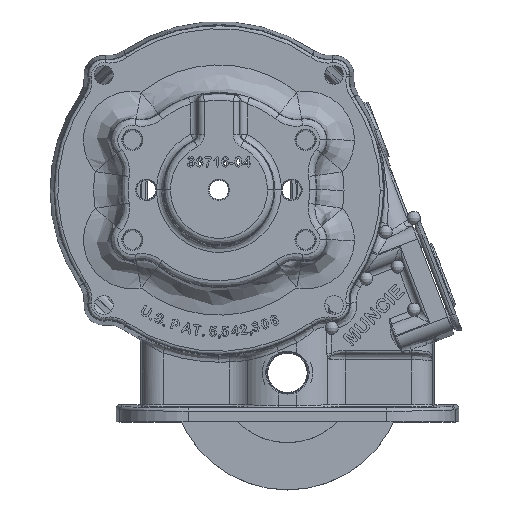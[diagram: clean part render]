
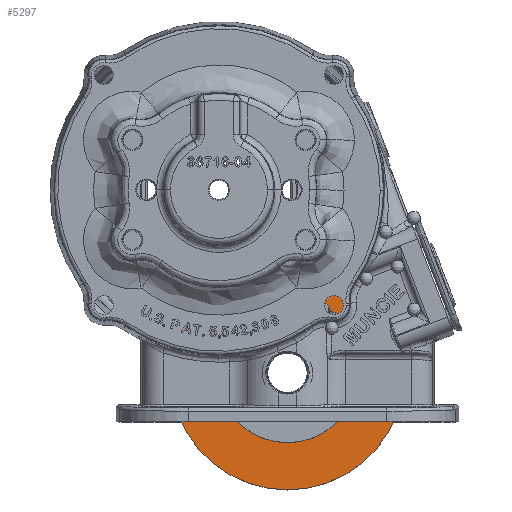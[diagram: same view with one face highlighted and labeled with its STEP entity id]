
A CAD part, top view. The second image highlights one B-rep face of the part: STEP entity #5297.
In plain terms, the highlighted planar face has unit normal (0, 0, 1).
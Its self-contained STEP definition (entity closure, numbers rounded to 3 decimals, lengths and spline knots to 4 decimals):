
#5297 = ADVANCED_FACE ( 'NONE', ( #32018, #32021 ), #32023, .T. ) ;
#10186 = CARTESIAN_POINT ( 'NONE',  ( 0.2973, -1.4645, -0.2777 ) ) ;
#10189 = DIRECTION ( 'NONE',  ( 0., 0., 1. ) ) ;
#10192 = DIRECTION ( 'NONE',  ( 0., -1., 0. ) ) ;
#10197 = CARTESIAN_POINT ( 'NONE',  ( 0.2973, -1.4645, -0.2777 ) ) ;
#10200 = DIRECTION ( 'NONE',  ( 0., 0., 1. ) ) ;
#10203 = DIRECTION ( 'NONE',  ( 0., -1., 0. ) ) ;
#32008 = CARTESIAN_POINT ( 'NONE',  ( 0.2973, -1.4645, -0.2777 ) ) ;
#32018 = FACE_OUTER_BOUND ( 'NONE', #60357, .T. ) ;
#32021 = FACE_BOUND ( 'NONE', #60524, .T. ) ;
#32023 = PLANE ( 'NONE',  #113807 ) ;
#32027 = DIRECTION ( 'NONE',  ( 0., 0., 1. ) ) ;
#32029 = DIRECTION ( 'NONE',  ( 0., -1., 0. ) ) ;
#42989 = ORIENTED_EDGE ( 'NONE', *, *, #69253, .F. ) ;
#46283 = ORIENTED_EDGE ( 'NONE', *, *, #69237, .T. ) ;
#46285 = ORIENTED_EDGE ( 'NONE', *, *, #69243, .F. ) ;
#46287 = ORIENTED_EDGE ( 'NONE', *, *, #69254, .T. ) ;
#46290 = VERTEX_POINT ( 'NONE', #74954 ) ;
#46291 = VERTEX_POINT ( 'NONE', #74952 ) ;
#46300 = VERTEX_POINT ( 'NONE', #74961 ) ;
#46302 = VERTEX_POINT ( 'NONE', #74963 ) ;
#60357 = EDGE_LOOP ( 'NONE', ( #46287, #46283 ) ) ;
#60524 = EDGE_LOOP ( 'NONE', ( #42989, #46285 ) ) ;
#64405 = CARTESIAN_POINT ( 'NONE',  ( 0.2973, -1.4645, -0.2777 ) ) ;
#64407 = DIRECTION ( 'NONE',  ( 0., 0., 1. ) ) ;
#64409 = DIRECTION ( 'NONE',  ( 0., -1., 0. ) ) ;
#64447 = CARTESIAN_POINT ( 'NONE',  ( 0.2973, -1.4645, -0.2777 ) ) ;
#64449 = DIRECTION ( 'NONE',  ( 0., 0., 1. ) ) ;
#64451 = DIRECTION ( 'NONE',  ( 0., -1., 0. ) ) ;
#69237 = EDGE_CURVE ( 'NONE', #46302, #46300, #84190, .T. ) ;
#69243 = EDGE_CURVE ( 'NONE', #46291, #46290, #84143, .T. ) ;
#69253 = EDGE_CURVE ( 'NONE', #46290, #46291, #84083, .T. ) ;
#69254 = EDGE_CURVE ( 'NONE', #46300, #46302, #84076, .T. ) ;
#74952 = CARTESIAN_POINT ( 'NONE',  ( 0.2973, -2.6645, -0.2777 ) ) ;
#74954 = CARTESIAN_POINT ( 'NONE',  ( 0.2973, -0.2645, -0.2777 ) ) ;
#74961 = CARTESIAN_POINT ( 'NONE',  ( 0.2973, 0.6705, -0.2777 ) ) ;
#74963 = CARTESIAN_POINT ( 'NONE',  ( 0.2973, -3.5995, -0.2777 ) ) ;
#84061 = AXIS2_PLACEMENT_3D ( 'NONE', #10197, #10200, #10203 ) ;
#84073 = AXIS2_PLACEMENT_3D ( 'NONE', #10186, #10189, #10192 ) ;
#84076 = CIRCLE ( 'NONE', #84061, 2.135 ) ;
#84083 = CIRCLE ( 'NONE', #84073, 1.2 ) ;
#84136 = AXIS2_PLACEMENT_3D ( 'NONE', #64447, #64449, #64451 ) ;
#84143 = CIRCLE ( 'NONE', #84136, 1.2 ) ;
#84165 = AXIS2_PLACEMENT_3D ( 'NONE', #64405, #64407, #64409 ) ;
#84190 = CIRCLE ( 'NONE', #84165, 2.135 ) ;
#113807 = AXIS2_PLACEMENT_3D ( 'NONE', #32008, #32027, #32029 ) ;
